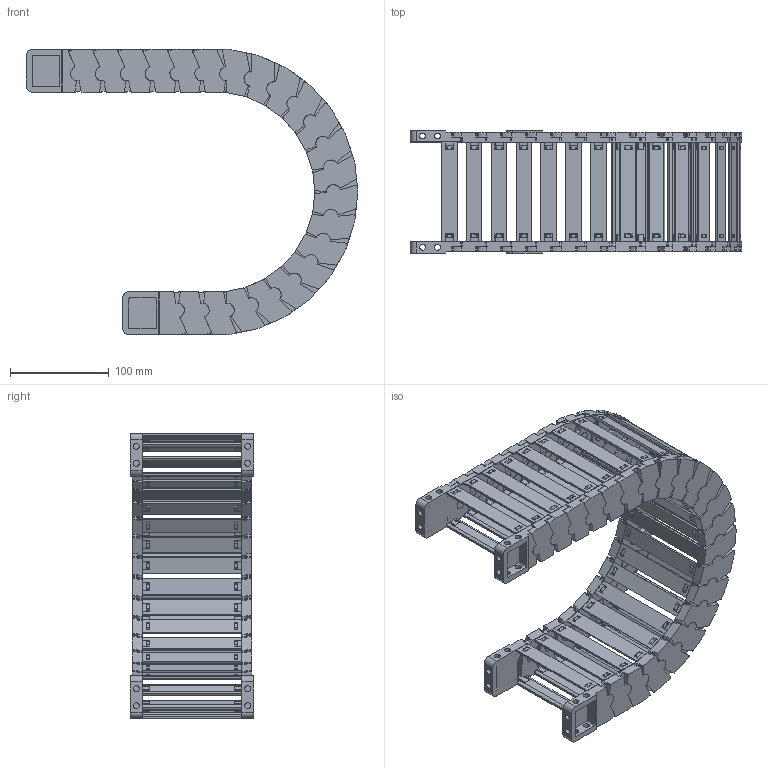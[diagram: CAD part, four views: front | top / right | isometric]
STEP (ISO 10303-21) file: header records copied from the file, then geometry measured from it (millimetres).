
FILE_DESCRIPTION((''),'2;1');
FILE_NAME('JY-35X100-R125_ASM','2026-05-07T15:22:19',('admin'),(''),'CREO PARAMETRIC BY PTC INC, 2021023','CREO PARAMETRIC BY PTC INC, 2021023','');
FILE_SCHEMA(('CONFIG_CONTROL_DESIGN'));
Length unit declared in the file: millimetre
Products named in the file (11): 35XL-L; 25-35XL-YP; 35XL-R; ASM0001_ASM; 35-LTT-A-L; 35-LTT-A-R; 35XL-LTT-A_ASM; 35-LTT-B-L; 35-LTT-B-R; 35XL-LTT-B_ASM; JY-35X100-R125_ASM
Assembly tree (36 placements, depth 3):
  JY-35X100-R125_ASM
    ASM0001_ASM  x22
      35XL-L
      25-35XL-YP
      35XL-R
    35XL-LTT-A_ASM
      35-LTT-A-L
      25-35XL-YP  x2
      35-LTT-A-R
    35XL-LTT-B_ASM
      35-LTT-B-L
      25-35XL-YP  x2
      35-LTT-B-R
Bounding box: 334.89 x 124.6 x 288.09 mm (x, y, z)
Volume: 744623.8 mm3; surface area: 463747.4 mm2
Topology: 96 solids, 96 shells, 4984 faces, 14582 edges, 9748 vertices
Faces by surface type: plane 3792, cylinder 1188, bspline 4
Entity records: 17184 total; most frequent: CARTESIAN_POINT 3195, ORIENTED_EDGE 2876, DIRECTION 2870, EDGE_CURVE 1438, VECTOR 1056, LINE 1056, VERTEX_POINT 964, AXIS2_PLACEMENT_3D 907
